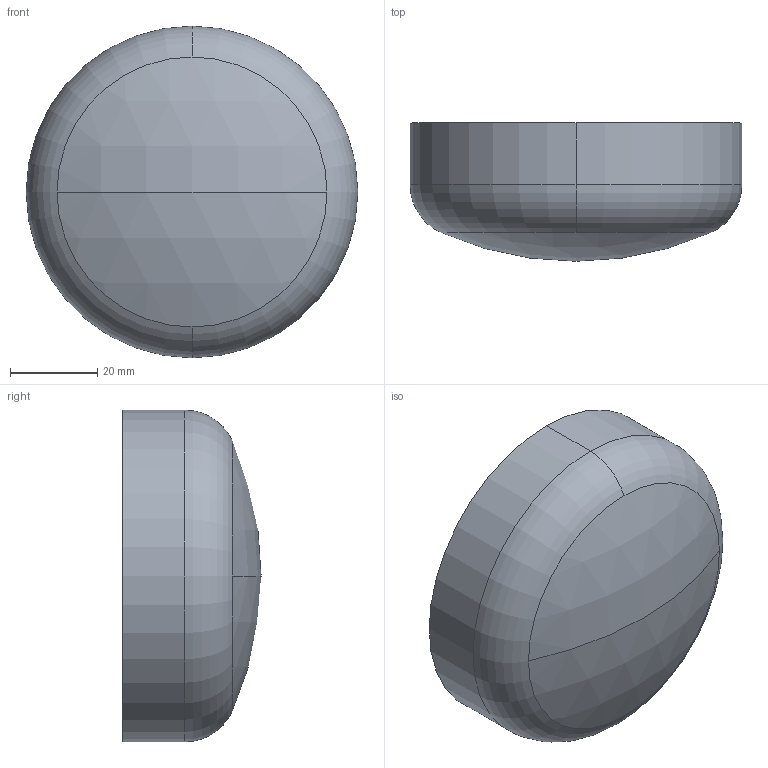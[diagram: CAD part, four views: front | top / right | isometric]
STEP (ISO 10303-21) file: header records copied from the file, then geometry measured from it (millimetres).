
FILE_DESCRIPTION (( 'STEP AP214' ), '1' );
FILE_NAME ('E16W 3.0 REV4.STEP', '2025-07-10T15:50:35', ( '' ), ( '' ), 'SwSTEP 2.0', 'SolidWorks 2022', '' );
FILE_SCHEMA (( 'AUTOMOTIVE_DESIGN' ));
Length unit declared in the file: inch
Products named in the file (1): E16W 3.0 REV4
Bounding box: 76.2 x 31.75 x 76.2 mm (x, y, z)
Volume: 15256.9 mm3; surface area: 18874.3 mm2
Topology: 1 solids, 1 shells, 13 faces, 28 edges, 18 vertices
Faces by surface type: sphere 4, torus 4, cylinder 4, plane 1
Entity records: 410 total; most frequent: DIRECTION 80, CARTESIAN_POINT 60, ORIENTED_EDGE 56, AXIS2_PLACEMENT_3D 38, EDGE_CURVE 28, CIRCLE 24, VERTEX_POINT 18, EDGE_LOOP 14
